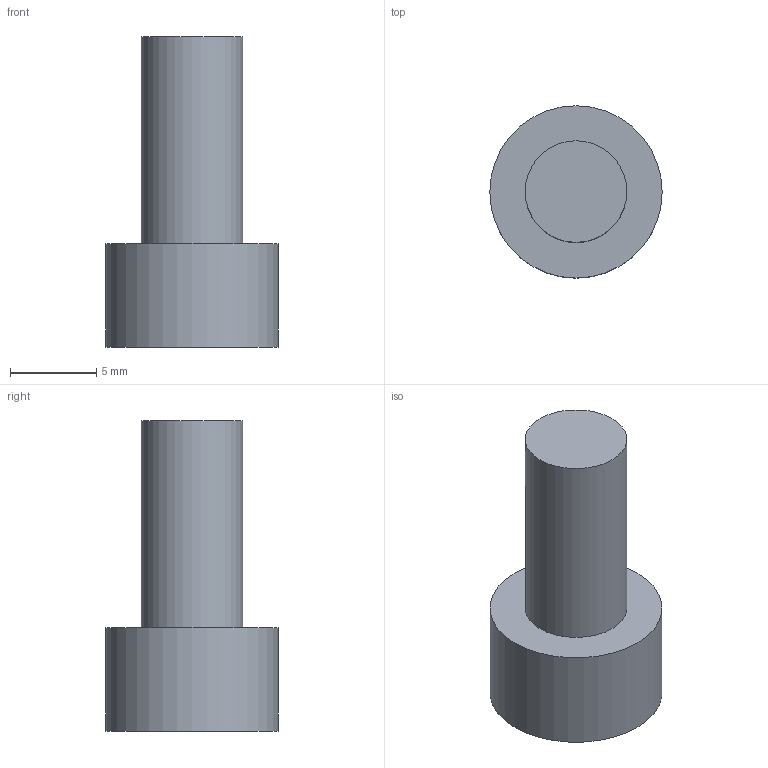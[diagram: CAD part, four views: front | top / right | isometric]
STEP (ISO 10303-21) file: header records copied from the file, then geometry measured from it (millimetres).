
FILE_DESCRIPTION(('Open CASCADE Model'),'2;1');
FILE_NAME('Open CASCADE Shape Model','2026-10-21T12:47:56',('Author'),( 'Open CASCADE'),'Open CASCADE STEP processor 7.9','Open CASCADE 7.9' ,'Unknown');
FILE_SCHEMA(('AUTOMOTIVE_DESIGN { 1 0 10303 214 1 1 1 1 }'));
Length unit declared in the file: millimetre
Products named in the file (1): Open CASCADE STEP translator 7.9 2
Bounding box: 10 x 10 x 18 mm (x, y, z)
Volume: 732.4 mm3; surface area: 621.5 mm2
Topology: 1 solids, 1 shells, 12 faces, 24 edges, 16 vertices
Faces by surface type: plane 10, cylinder 2
Full cylindrical faces by diameter (mm): 5.9 x1, 10 x1
Entity records: 622 total; most frequent: CARTESIAN_POINT 113, DIRECTION 90, LINE 52, VECTOR 52, ORIENTED_EDGE 48, PCURVE 48, DEFINITIONAL_REPRESENTATION 48, EDGE_CURVE 24
